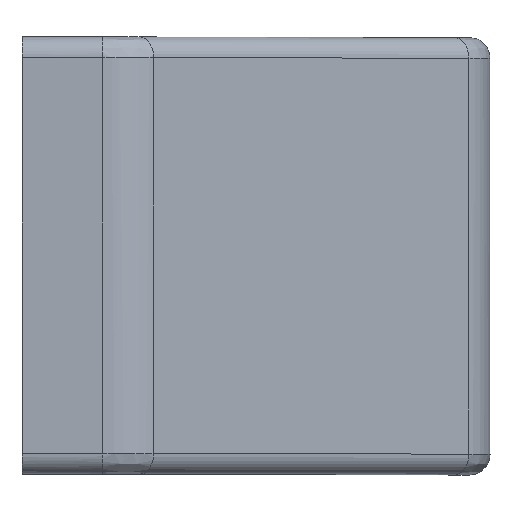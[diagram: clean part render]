
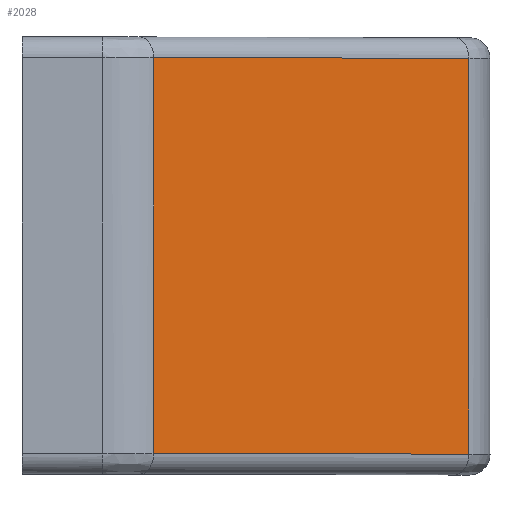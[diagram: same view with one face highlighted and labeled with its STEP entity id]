
A CAD part, top view. The second image highlights one B-rep face of the part: STEP entity #2028.
In plain terms, the highlighted planar face has unit normal (0.707, 0, 0.707).
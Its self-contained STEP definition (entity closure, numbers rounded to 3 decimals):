
#74 = DIRECTION ( 'NONE',  ( 0., 1., 0. ) ) ;
#117 = ORIENTED_EDGE ( 'NONE', *, *, #2368, .F. ) ;
#158 = VERTEX_POINT ( 'NONE', #1782 ) ;
#225 = VECTOR ( 'NONE', #74, 1000. ) ;
#226 = LINE ( 'NONE', #1194, #798 ) ;
#252 = EDGE_CURVE ( 'NONE', #986, #820, #1415, .T. ) ;
#265 = CARTESIAN_POINT ( 'NONE',  ( -9.872, -21.1, 20.529 ) ) ;
#298 = ORIENTED_EDGE ( 'NONE', *, *, #2409, .F. ) ;
#379 = CARTESIAN_POINT ( 'NONE',  ( 20.529, -19.1, -9.872 ) ) ;
#409 = EDGE_CURVE ( 'NONE', #158, #2257, #1425, .T. ) ;
#412 = ORIENTED_EDGE ( 'NONE', *, *, #252, .F. ) ;
#463 = DIRECTION ( 'NONE',  ( 0., -1., 0. ) ) ;
#509 = CARTESIAN_POINT ( 'NONE',  ( 20.529, -19.1, -9.873 ) ) ;
#627 = DIRECTION ( 'NONE',  ( 0.707, 0., -0.707 ) ) ;
#629 = VECTOR ( 'NONE', #1144, 1000. ) ;
#633 = CARTESIAN_POINT ( 'NONE',  ( -9.872, -19.1, 20.529 ) ) ;
#798 = VECTOR ( 'NONE', #627, 1000. ) ;
#820 = VERTEX_POINT ( 'NONE', #1843 ) ;
#836 = EDGE_LOOP ( 'NONE', ( #298, #859, #117, #412 ) ) ;
#859 = ORIENTED_EDGE ( 'NONE', *, *, #409, .F. ) ;
#860 = CARTESIAN_POINT ( 'NONE',  ( 20.529, -21.1, -9.872 ) ) ;
#986 = VERTEX_POINT ( 'NONE', #633 ) ;
#1098 = PLANE ( 'NONE',  #1119 ) ;
#1119 = AXIS2_PLACEMENT_3D ( 'NONE', #1633, #2032, #1855 ) ;
#1144 = DIRECTION ( 'NONE',  ( -0.707, 0., 0.707 ) ) ;
#1194 = CARTESIAN_POINT ( 'NONE',  ( 20.529, 19.1, -9.872 ) ) ;
#1342 = LINE ( 'NONE', #379, #629 ) ;
#1415 = LINE ( 'NONE', #265, #225 ) ;
#1425 = LINE ( 'NONE', #860, #2350 ) ;
#1626 = FACE_OUTER_BOUND ( 'NONE', #836, .T. ) ;
#1633 = CARTESIAN_POINT ( 'NONE',  ( 20.529, -21.1, -9.872 ) ) ;
#1782 = CARTESIAN_POINT ( 'NONE',  ( 20.529, 19.1, -9.873 ) ) ;
#1843 = CARTESIAN_POINT ( 'NONE',  ( -9.872, 19.1, 20.529 ) ) ;
#1855 = DIRECTION ( 'NONE',  ( 0., 1., 0. ) ) ;
#2028 = ADVANCED_FACE ( 'NONE', ( #1626 ), #1098, .F. ) ;
#2032 = DIRECTION ( 'NONE',  ( -0.707, 0., -0.707 ) ) ;
#2257 = VERTEX_POINT ( 'NONE', #509 ) ;
#2350 = VECTOR ( 'NONE', #463, 1000. ) ;
#2368 = EDGE_CURVE ( 'NONE', #820, #158, #226, .T. ) ;
#2409 = EDGE_CURVE ( 'NONE', #2257, #986, #1342, .T. ) ;
